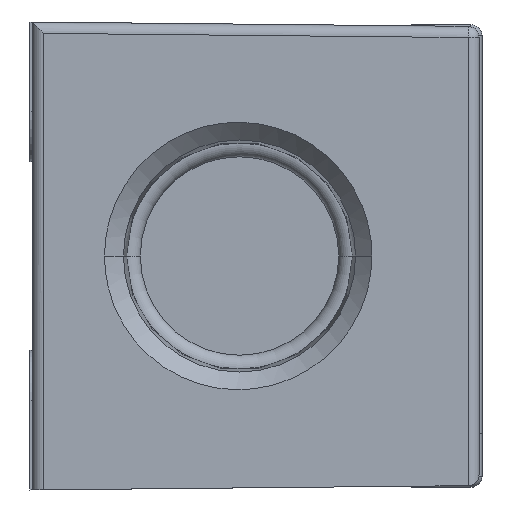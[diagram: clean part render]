
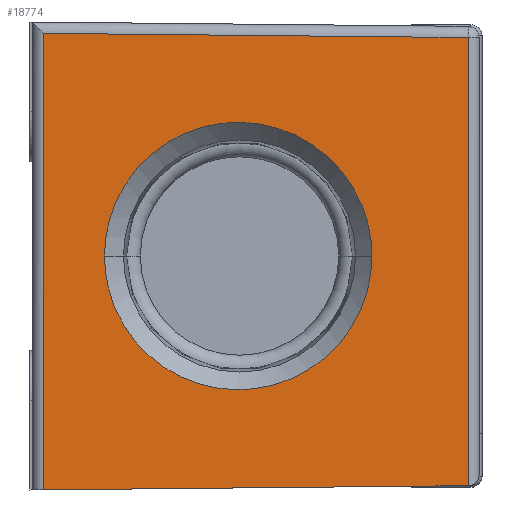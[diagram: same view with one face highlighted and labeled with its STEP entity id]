
A CAD part, front view. The second image highlights one B-rep face of the part: STEP entity #18774.
In plain terms, the highlighted planar face has unit normal (0.01, -1, 0).
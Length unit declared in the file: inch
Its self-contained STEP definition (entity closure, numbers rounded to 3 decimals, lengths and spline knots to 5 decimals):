
#4873=DIRECTION('',(0.,0.,1.));
#4874=VECTOR('',#4873,1.82891);
#4875=CARTESIAN_POINT('',(-0.79956,-3.68445,
-0.93695));
#4876=LINE('',#4875,#4874);
#4887=DIRECTION('',(-1.,-0.01,0.01));
#4888=VECTOR('',#4887,1.70017);
#4889=CARTESIAN_POINT('',(0.90044,-3.66769,
0.87519));
#4890=LINE('',#4889,#4888);
#4927=DIRECTION('',(-1.,-0.01,-0.01));
#4928=VECTOR('',#4927,1.70017);
#4929=CARTESIAN_POINT('',(0.90044,-3.66769,
-0.92019));
#4930=LINE('',#4929,#4928);
#4931=CARTESIAN_POINT('',(0.51549,-3.67149,0.));
#4932=CARTESIAN_POINT('',(0.51549,-3.67149,
-0.03157));
#4933=CARTESIAN_POINT('',(0.50988,-3.67154,
-0.09707));
#4934=CARTESIAN_POINT('',(0.48145,-3.67182,
-0.19781));
#4935=CARTESIAN_POINT('',(0.43154,-3.67231,
-0.2949));
#4936=CARTESIAN_POINT('',(0.3613,-3.67301,
-0.38156));
#4937=CARTESIAN_POINT('',(0.27463,-3.67386,
-0.45181));
#4938=CARTESIAN_POINT('',(0.19372,-3.67466,
-0.49338));
#4939=CARTESIAN_POINT('',(0.12716,-3.67531,
-0.51593));
#4940=CARTESIAN_POINT('',(0.0771,-3.67581,
-0.52763));
#4941=CARTESIAN_POINT('',(0.03591,-3.67621,
-0.53323));
#4942=CARTESIAN_POINT('',(0.00352,-3.67653,
-0.53539));
#4943=CARTESIAN_POINT('',(-0.02028,-3.67677,
-0.53592));
#4944=CARTESIAN_POINT('',(-0.04409,-3.677,
-0.53539));
#4945=CARTESIAN_POINT('',(-0.07647,-3.67732,
-0.53323));
#4946=CARTESIAN_POINT('',(-0.11767,-3.67773,
-0.52763));
#4947=CARTESIAN_POINT('',(-0.16773,-3.67822,
-0.51593));
#4948=CARTESIAN_POINT('',(-0.23429,-3.67888,
-0.49338));
#4949=CARTESIAN_POINT('',(-0.3152,-3.67968,
-0.45181));
#4950=CARTESIAN_POINT('',(-0.40187,-3.68053,
-0.38156));
#4951=CARTESIAN_POINT('',(-0.47211,-3.68122,
-0.2949));
#4952=CARTESIAN_POINT('',(-0.52201,-3.68172,
-0.19781));
#4953=CARTESIAN_POINT('',(-0.55044,-3.682,
-0.09707));
#4954=CARTESIAN_POINT('',(-0.55605,-3.68205,
-0.03157));
#4955=CARTESIAN_POINT('',(-0.55605,-3.68205,0.));
#4957=CARTESIAN_POINT('',(-0.55605,-3.68205,0.));
#4958=CARTESIAN_POINT('',(-0.55605,-3.68205,
0.03157));
#4959=CARTESIAN_POINT('',(-0.55044,-3.682,
0.09707));
#4960=CARTESIAN_POINT('',(-0.52201,-3.68172,
0.19781));
#4961=CARTESIAN_POINT('',(-0.47211,-3.68122,
0.2949));
#4962=CARTESIAN_POINT('',(-0.40187,-3.68053,
0.38156));
#4963=CARTESIAN_POINT('',(-0.3152,-3.67968,
0.45181));
#4964=CARTESIAN_POINT('',(-0.23429,-3.67888,
0.49338));
#4965=CARTESIAN_POINT('',(-0.16773,-3.67822,
0.51593));
#4966=CARTESIAN_POINT('',(-0.11767,-3.67773,
0.52763));
#4967=CARTESIAN_POINT('',(-0.07647,-3.67732,
0.53323));
#4968=CARTESIAN_POINT('',(-0.04409,-3.677,
0.53539));
#4969=CARTESIAN_POINT('',(-0.02028,-3.67677,
0.53592));
#4970=CARTESIAN_POINT('',(0.00352,-3.67653,
0.53539));
#4971=CARTESIAN_POINT('',(0.03591,-3.67621,
0.53323));
#4972=CARTESIAN_POINT('',(0.0771,-3.67581,
0.52763));
#4973=CARTESIAN_POINT('',(0.12716,-3.67531,
0.51593));
#4974=CARTESIAN_POINT('',(0.19372,-3.67466,
0.49338));
#4975=CARTESIAN_POINT('',(0.27463,-3.67386,
0.45181));
#4976=CARTESIAN_POINT('',(0.3613,-3.67301,
0.38156));
#4977=CARTESIAN_POINT('',(0.43154,-3.67231,
0.2949));
#4978=CARTESIAN_POINT('',(0.48145,-3.67182,
0.19781));
#4979=CARTESIAN_POINT('',(0.50988,-3.67154,
0.09707));
#4980=CARTESIAN_POINT('',(0.51549,-3.67149,
0.03157));
#4981=CARTESIAN_POINT('',(0.51549,-3.67149,0.));
#4987=DIRECTION('',(0.,0.,-1.));
#4988=VECTOR('',#4987,1.79538);
#4989=CARTESIAN_POINT('',(0.90044,-3.66769,
0.87519));
#4990=LINE('',#4989,#4988);
#9584=CARTESIAN_POINT('',(0.51549,-3.67149,0.));
#9585=VERTEX_POINT('',#9584);
#9586=CARTESIAN_POINT('',(-0.55605,-3.68205,0.));
#9587=VERTEX_POINT('',#9586);
#9656=CARTESIAN_POINT('',(0.90044,-3.66769,
0.87519));
#9657=CARTESIAN_POINT('',(0.90044,-3.66769,
-0.92019));
#9658=VERTEX_POINT('',#9656);
#9659=VERTEX_POINT('',#9657);
#9670=CARTESIAN_POINT('',(-0.79956,-3.68445,
0.89196));
#9671=VERTEX_POINT('',#9670);
#9676=CARTESIAN_POINT('',(-0.79956,-3.68445,
-0.93695));
#9677=VERTEX_POINT('',#9676);
#18755=CARTESIAN_POINT('',(-0.855,-3.685,-1.9922));
#18756=DIRECTION('',(0.01,-1.,0.));
#18757=DIRECTION('',(0.,0.,1.));
#18758=AXIS2_PLACEMENT_3D('',#18755,#18756,#18757);
#18759=PLANE('',#18758);
#18761=ORIENTED_EDGE('',*,*,#18760,.T.);
#18763=ORIENTED_EDGE('',*,*,#18762,.T.);
#18764=ORIENTED_EDGE('',*,*,#18733,.T.);
#18765=ORIENTED_EDGE('',*,*,#18745,.F.);
#18766=EDGE_LOOP('',(#18761,#18763,#18764,#18765));
#18767=FACE_OUTER_BOUND('',#18766,.F.);
#18769=ORIENTED_EDGE('',*,*,#18768,.F.);
#18771=ORIENTED_EDGE('',*,*,#18770,.F.);
#18772=EDGE_LOOP('',(#18769,#18771));
#18773=FACE_BOUND('',#18772,.F.);
#18774=ADVANCED_FACE('',(#18767,#18773),#18759,.T.);
#4956=B_SPLINE_CURVE_WITH_KNOTS('',3,(#4931,#4932,#4933,#4934,#4935,#4936,#4937,
#4938,#4939,#4940,#4941,#4942,#4943,#4944,#4945,#4946,#4947,#4948,#4949,#4950,
#4951,#4952,#4953,#4954,#4955),.UNSPECIFIED.,.F.,.F.,(4,1,1,1,1,1,1,1,1,1,1,1,1,
1,1,1,1,1,1,1,1,1,4),(0.,0.0625,0.125,0.1875,0.25,0.3125,0.375,
0.40625,0.4375,0.46875,0.48438,0.5,0.51563,0.53125,0.5625,
0.59375,0.625,0.6875,0.75,0.8125,0.875,0.9375,1.),
.UNSPECIFIED.);
#4982=B_SPLINE_CURVE_WITH_KNOTS('',3,(#4957,#4958,#4959,#4960,#4961,#4962,#4963,
#4964,#4965,#4966,#4967,#4968,#4969,#4970,#4971,#4972,#4973,#4974,#4975,#4976,
#4977,#4978,#4979,#4980,#4981),.UNSPECIFIED.,.F.,.F.,(4,1,1,1,1,1,1,1,1,1,1,1,1,
1,1,1,1,1,1,1,1,1,4),(0.,0.0625,0.125,0.1875,0.25,0.3125,0.375,
0.40625,0.4375,0.46875,0.48438,0.5,0.51563,0.53125,0.5625,
0.59375,0.625,0.6875,0.75,0.8125,0.875,0.9375,1.),
.UNSPECIFIED.);
#18733=EDGE_CURVE('',#9677,#9671,#4876,.T.);
#18745=EDGE_CURVE('',#9658,#9671,#4890,.T.);
#18760=EDGE_CURVE('',#9658,#9659,#4990,.T.);
#18762=EDGE_CURVE('',#9659,#9677,#4930,.T.);
#18768=EDGE_CURVE('',#9585,#9587,#4956,.T.);
#18770=EDGE_CURVE('',#9587,#9585,#4982,.T.);
